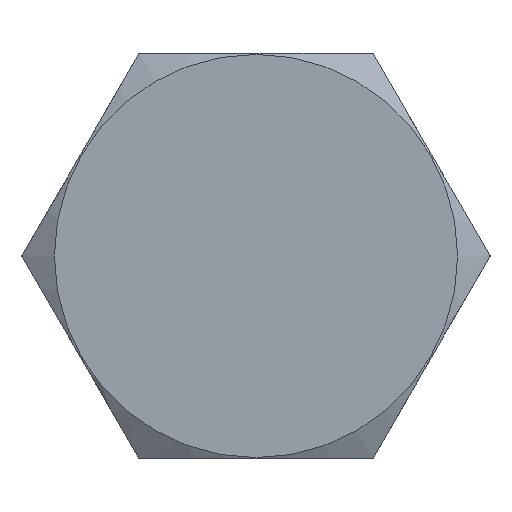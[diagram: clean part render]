
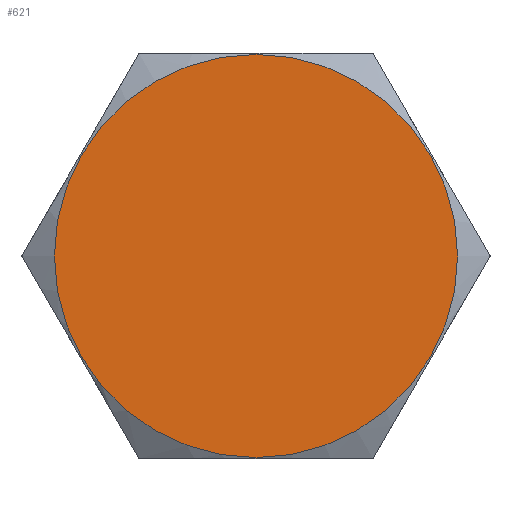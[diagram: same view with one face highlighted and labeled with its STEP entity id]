
A CAD part, front view. The second image highlights one B-rep face of the part: STEP entity #621.
In plain terms, the highlighted planar face has unit normal (0, -1, 0).
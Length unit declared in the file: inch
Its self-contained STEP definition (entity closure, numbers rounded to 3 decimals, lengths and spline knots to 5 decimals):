
#41=PLANE('',#714);
#144=FACE_OUTER_BOUND('',#183,.T.);
#183=EDGE_LOOP('',(#578));
#227=CIRCLE('',#711,0.373);
#299=VERTEX_POINT('',#1241);
#390=EDGE_CURVE('',#299,#299,#227,.T.);
#578=ORIENTED_EDGE('',*,*,#390,.F.);
#621=ADVANCED_FACE('',(#144),#41,.T.);
#711=AXIS2_PLACEMENT_3D('',#1242,#892,#893);
#714=AXIS2_PLACEMENT_3D('',#1246,#899,#900);
#892=DIRECTION('center_axis',(0.,1.,0.));
#893=DIRECTION('ref_axis',(0.,0.,1.));
#899=DIRECTION('center_axis',(0.,-1.,0.));
#900=DIRECTION('ref_axis',(0.,0.,-1.));
#1241=CARTESIAN_POINT('',(0.,0.,-0.373));
#1242=CARTESIAN_POINT('Origin',(0.,0.,0.));
#1246=CARTESIAN_POINT('Origin',(0.,0.,0.));
